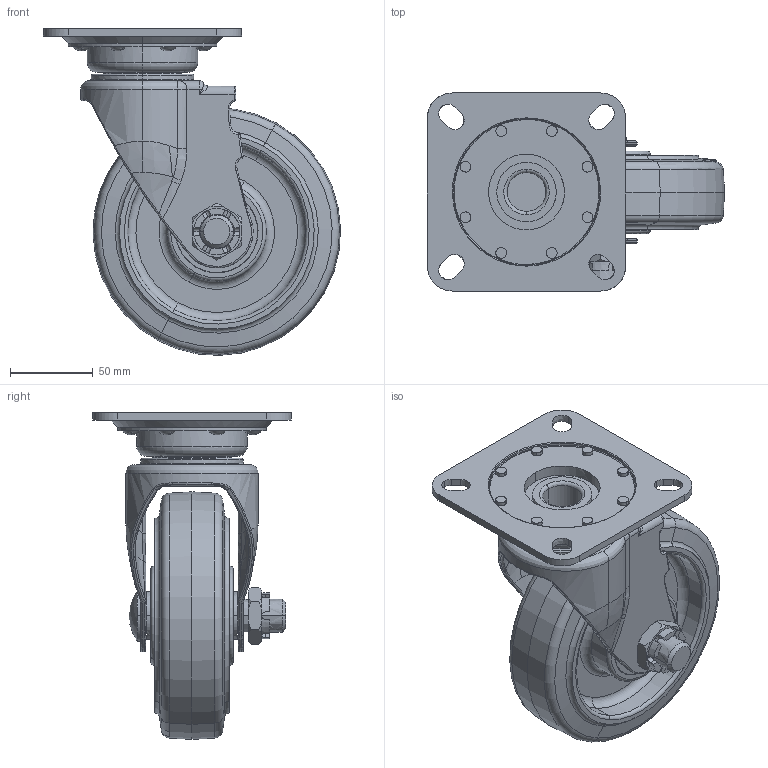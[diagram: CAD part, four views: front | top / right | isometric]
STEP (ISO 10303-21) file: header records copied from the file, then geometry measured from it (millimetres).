
FILE_DESCRIPTION(('CATIA V5 STEP Exchange'),'2;1');
FILE_NAME('Y:\中荷重用キャスター\TRS\131012\TRS-150AWJ.stp','2014-07-07T01:54:39+00:00',('none'),('none'),'Version 5-6 Release 2012','CATIA V5 STEP AP214','none');
FILE_SCHEMA(('AUTOMOTIVE_DESIGN { 1 0 10303 214 1 1 1 1 }'));
Length unit declared in the file: millimetre
Products named in the file (1): TRS-150AWJ
Bounding box: 179.98 x 120 x 197.98 mm (x, y, z)
Volume: 708970.1 mm3; surface area: 269116.7 mm2
Topology: 52 solids, 52 shells, 936 faces, 2418 edges, 1413 vertices
Faces by surface type: plane 267, bspline 237, cylinder 136, torus 135, sphere 133, cone 22, extrusion 6
Entity records: 40150 total; most frequent: CARTESIAN_POINT 22180, ORIENTED_EDGE 4414, EDGE_CURVE 2207, DIRECTION 2098, VERTEX_POINT 1406, AXIS2_PLACEMENT_3D 1093, EDGE_LOOP 1043, B_SPLINE_CURVE_WITH_KNOTS 961
